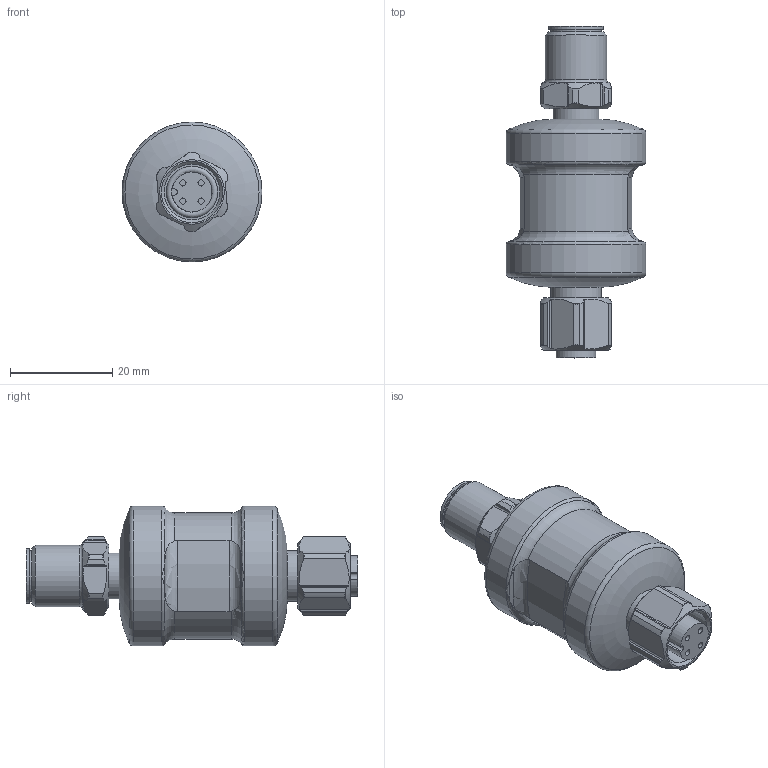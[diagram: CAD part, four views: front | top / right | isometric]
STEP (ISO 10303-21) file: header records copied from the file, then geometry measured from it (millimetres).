
FILE_DESCRIPTION(/* description */ ('STEP AP203'),/* implementation_level */ '2;1');
FILE_NAME(/* name */ 'TP2001',/* time_stamp */ '2024-07-01T10:54:17+02:00',/* author */ ('License CC BY-ND 4.0'),/* organization */ ('CADENAS'),/* preprocessor_version */ 'ST-DEVELOPER v19.3',/* originating_system */ 'PARTsolutions',/* authorisation */ ' ');
FILE_SCHEMA (('CONFIG_CONTROL_DESIGN'));
Length unit declared in the file: millimetre
Products named in the file (1): TP2001
Bounding box: 27.4 x 65 x 27.4 mm (x, y, z)
Volume: 19637.6 mm3; surface area: 6013.5 mm2
Topology: 1 solids, 1 shells, 156 faces, 414 edges, 272 vertices
Faces by surface type: plane 57, cylinder 44, torus 44, cone 11
Full cylindrical faces by diameter (mm): 1.2 x4, 8.3 x1, 9 x1, 9.9 x1, 10 x1, 10.7 x1, 10.917 x1, 12 x1, 27.4 x2
Entity records: 6010 total; most frequent: CARTESIAN_POINT 1436, ORIENTED_EDGE 756, DIRECTION 621, EDGE_CURVE 378, AXIS2_PLACEMENT_3D 269, VERTEX_POINT 264, EDGE_LOOP 196, FACE_BOUND 196
